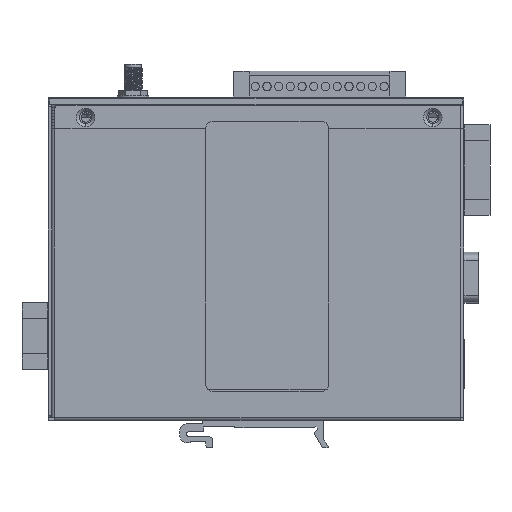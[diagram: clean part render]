
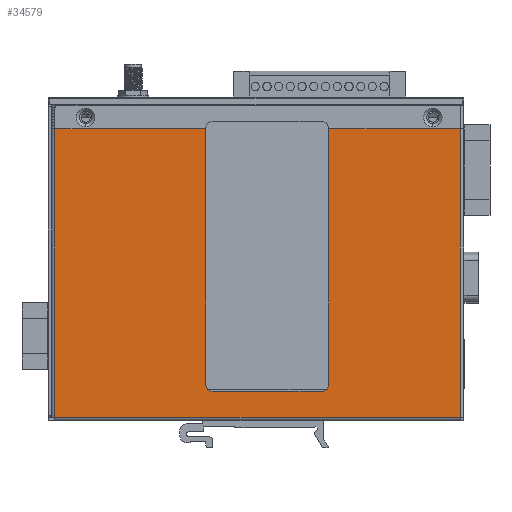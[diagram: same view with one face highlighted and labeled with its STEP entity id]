
A CAD part, front view. The second image highlights one B-rep face of the part: STEP entity #34579.
In plain terms, the highlighted planar face has unit normal (0, -1, 0).
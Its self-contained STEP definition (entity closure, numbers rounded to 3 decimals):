
#4667=DIRECTION('',(1.,0.,0.));
#4668=VECTOR('',#4667,132.);
#4669=CARTESIAN_POINT('',(-65.5,-1.8,-51.45));
#4670=LINE('',#4669,#4668);
#4785=DIRECTION('',(0.,0.,-1.));
#4786=VECTOR('',#4785,93.9);
#4787=CARTESIAN_POINT('',(-65.5,-1.8,42.45));
#4788=LINE('',#4787,#4786);
#4899=DIRECTION('',(-1.,0.,0.));
#4900=VECTOR('',#4899,0.1);
#4901=CARTESIAN_POINT('',(-65.4,-1.8,42.45));
#4902=LINE('',#4901,#4900);
#4954=DIRECTION('',(1.,0.,0.));
#4955=VECTOR('',#4954,42.82);
#4956=CARTESIAN_POINT('',(23.68,-1.8,42.45));
#4957=LINE('',#4956,#4955);
#4958=DIRECTION('',(1.,0.,0.));
#4959=VECTOR('',#4958,49.081);
#4960=CARTESIAN_POINT('',(-65.4,-1.8,42.45));
#4961=LINE('',#4960,#4959);
#4962=CARTESIAN_POINT('',(-13.82,-1.8,-40.6));
#4963=DIRECTION('',(0.,-1.,0.));
#4964=DIRECTION('',(-1.,0.,0.));
#4965=AXIS2_PLACEMENT_3D('',#4962,#4963,#4964);
#4967=CARTESIAN_POINT('',(21.18,-1.8,-40.6));
#4968=DIRECTION('',(0.,-1.,0.));
#4969=DIRECTION('',(0.,0.,-1.));
#4970=AXIS2_PLACEMENT_3D('',#4967,#4968,#4969);
#4972=DIRECTION('',(0.,0.,-1.));
#4973=VECTOR('',#4972,83.);
#4974=CARTESIAN_POINT('',(23.68,-1.8,42.4));
#4975=LINE('',#4974,#4973);
#4984=DIRECTION('',(-1.,0.,0.));
#4985=VECTOR('',#4984,35.);
#4986=CARTESIAN_POINT('',(21.18,-1.8,-43.1));
#4987=LINE('',#4986,#4985);
#4992=DIRECTION('',(0.,0.,1.));
#4993=VECTOR('',#4992,83.);
#4994=CARTESIAN_POINT('',(-16.32,-1.8,-40.6));
#4995=LINE('',#4994,#4993);
#5000=CARTESIAN_POINT('',(-13.82,-1.8,42.4));
#5001=DIRECTION('',(0.,1.,0.));
#5002=DIRECTION('',(-1.,0.,0.));
#5003=AXIS2_PLACEMENT_3D('',#5000,#5001,#5002);
#5017=CARTESIAN_POINT('',(21.18,-1.8,42.4));
#5018=DIRECTION('',(0.,1.,0.));
#5019=DIRECTION('',(1.,0.,0.02));
#5020=AXIS2_PLACEMENT_3D('',#5017,#5018,#5019);
#5080=DIRECTION('',(0.,0.,1.));
#5081=VECTOR('',#5080,93.9);
#5082=CARTESIAN_POINT('',(66.5,-1.8,-51.45));
#5083=LINE('',#5082,#5081);
#25110=CARTESIAN_POINT('',(23.68,-1.8,42.45));
#25111=CARTESIAN_POINT('',(66.5,-1.8,42.45));
#25112=VERTEX_POINT('',#25110);
#25113=VERTEX_POINT('',#25111);
#25118=CARTESIAN_POINT('',(-16.319,-1.8,42.45));
#25119=VERTEX_POINT('',#25118);
#25120=CARTESIAN_POINT('',(-65.4,-1.8,42.45));
#25121=VERTEX_POINT('',#25120);
#25128=CARTESIAN_POINT('',(23.68,-1.8,42.4));
#25129=CARTESIAN_POINT('',(23.68,-1.8,-40.6));
#25130=VERTEX_POINT('',#25128);
#25131=VERTEX_POINT('',#25129);
#25132=CARTESIAN_POINT('',(-65.5,-1.8,42.45));
#25133=VERTEX_POINT('',#25132);
#25134=CARTESIAN_POINT('',(-16.32,-1.8,42.4));
#25135=VERTEX_POINT('',#25134);
#25136=CARTESIAN_POINT('',(-16.32,-1.8,-40.6));
#25137=VERTEX_POINT('',#25136);
#25138=CARTESIAN_POINT('',(-13.82,-1.8,-43.1));
#25139=VERTEX_POINT('',#25138);
#25140=CARTESIAN_POINT('',(21.18,-1.8,-43.1));
#25141=VERTEX_POINT('',#25140);
#25162=CARTESIAN_POINT('',(66.5,-1.8,-51.45));
#25163=VERTEX_POINT('',#25162);
#25346=CARTESIAN_POINT('',(-65.5,-1.8,-51.45));
#25347=VERTEX_POINT('',#25346);
#34551=CARTESIAN_POINT('',(0.5,-1.8,-4.5));
#34552=DIRECTION('',(0.,1.,0.));
#34553=DIRECTION('',(1.,0.,0.));
#34554=AXIS2_PLACEMENT_3D('',#34551,#34552,#34553);
#34555=PLANE('',#34554);
#34557=ORIENTED_EDGE('',*,*,#34556,.F.);
#34559=ORIENTED_EDGE('',*,*,#34558,.F.);
#34560=ORIENTED_EDGE('',*,*,#34519,.T.);
#34562=ORIENTED_EDGE('',*,*,#34561,.F.);
#34563=ORIENTED_EDGE('',*,*,#34179,.F.);
#34564=ORIENTED_EDGE('',*,*,#34342,.F.);
#34565=ORIENTED_EDGE('',*,*,#34493,.F.);
#34566=ORIENTED_EDGE('',*,*,#34527,.T.);
#34568=ORIENTED_EDGE('',*,*,#34567,.F.);
#34570=ORIENTED_EDGE('',*,*,#34569,.F.);
#34572=ORIENTED_EDGE('',*,*,#34571,.T.);
#34574=ORIENTED_EDGE('',*,*,#34573,.F.);
#34576=ORIENTED_EDGE('',*,*,#34575,.T.);
#34577=EDGE_LOOP('',(#34557,#34559,#34560,#34562,#34563,#34564,#34565,#34566,
#34568,#34570,#34572,#34574,#34576));
#34578=FACE_OUTER_BOUND('',#34577,.F.);
#34579=ADVANCED_FACE('',(#34578),#34555,.F.);
#4966=CIRCLE('',#4965,2.5);
#4971=CIRCLE('',#4970,2.5);
#5004=CIRCLE('',#5003,2.5);
#5021=CIRCLE('',#5020,2.5);
#34179=EDGE_CURVE('',#25347,#25163,#4670,.T.);
#34342=EDGE_CURVE('',#25133,#25347,#4788,.T.);
#34493=EDGE_CURVE('',#25121,#25133,#4902,.T.);
#34519=EDGE_CURVE('',#25112,#25113,#4957,.T.);
#34527=EDGE_CURVE('',#25121,#25119,#4961,.T.);
#34556=EDGE_CURVE('',#25130,#25131,#4975,.T.);
#34558=EDGE_CURVE('',#25112,#25130,#5021,.T.);
#34561=EDGE_CURVE('',#25163,#25113,#5083,.T.);
#34567=EDGE_CURVE('',#25135,#25119,#5004,.T.);
#34569=EDGE_CURVE('',#25137,#25135,#4995,.T.);
#34571=EDGE_CURVE('',#25137,#25139,#4966,.T.);
#34573=EDGE_CURVE('',#25141,#25139,#4987,.T.);
#34575=EDGE_CURVE('',#25141,#25131,#4971,.T.);
